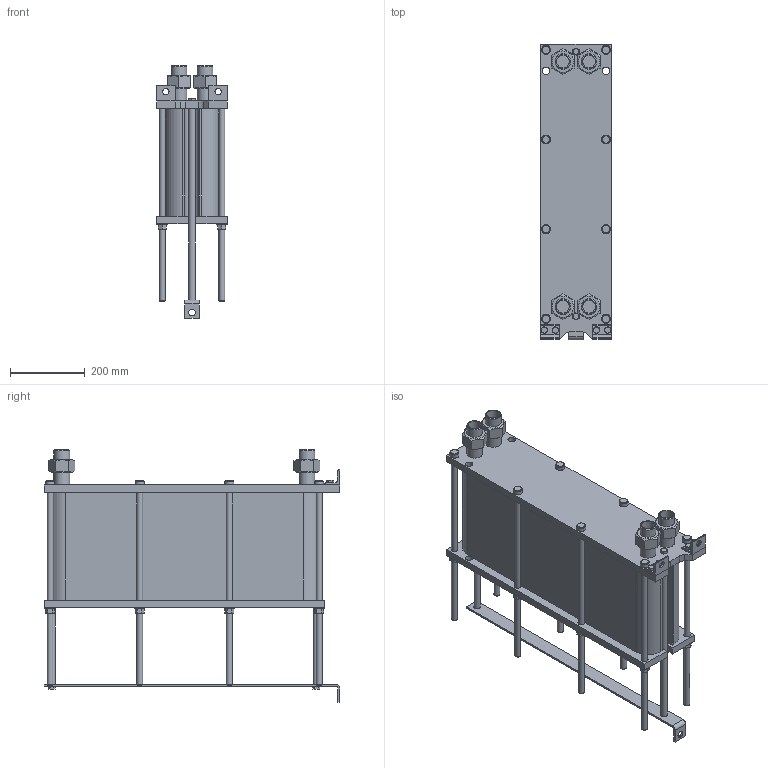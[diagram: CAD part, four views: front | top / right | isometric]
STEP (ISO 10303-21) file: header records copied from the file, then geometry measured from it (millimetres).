
FILE_DESCRIPTION(/* description */ (''),/* implementation_level */ '2;1');
FILE_NAME(/* name */ 'C:\Users\zhuro\Desktop\ENCO\TO\ЭН-008\ЭН-0,5-008-93-1.stp',/* time_stamp */ '2022-06-06T10:54:02+03:00',/* author */ ('zhuro'),/* organization */ (''),/* preprocessor_version */ 'ST-DEVELOPER v18.1',/* originating_system */ 'Autodesk Inventor 2022',/* authorisation */ '');
FILE_SCHEMA (('AUTOMOTIVE_DESIGN { 1 0 10303 214 3 1 1 }'));
Length unit declared in the file: millimetre
Products named in the file (1): ЭН-0,5-008-93-1
Bounding box: 190 x 790 x 675.4 mm (x, y, z)
Volume: 36329621.7 mm3; surface area: 1962313 mm2
Topology: 40 solids, 40 shells, 428 faces, 924 edges, 606 vertices
Faces by surface type: plane 273, cylinder 109, cone 40, torus 6
Full cylindrical faces by diameter (mm): 12 x6, 14 x2, 16 x20, 17 x8, 18 x19, 20 x5, 24 x8, 28 x8, 34.3 x8, 42.3 x8
Entity records: 15843 total; most frequent: CARTESIAN_POINT 5991, DIRECTION 1984, ORIENTED_EDGE 1848, EDGE_CURVE 924, AXIS2_PLACEMENT_3D 715, VERTEX_POINT 606, LINE 554, VECTOR 554
